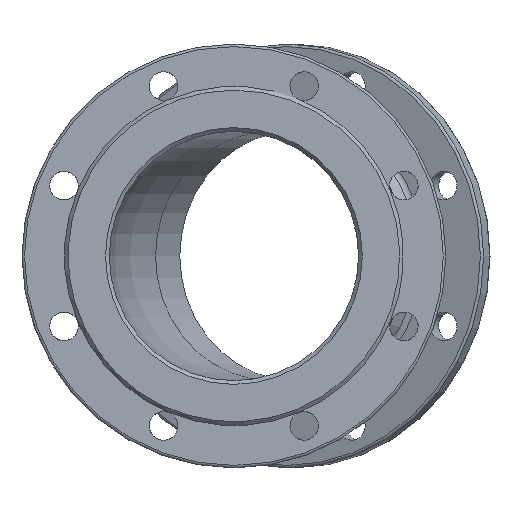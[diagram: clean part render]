
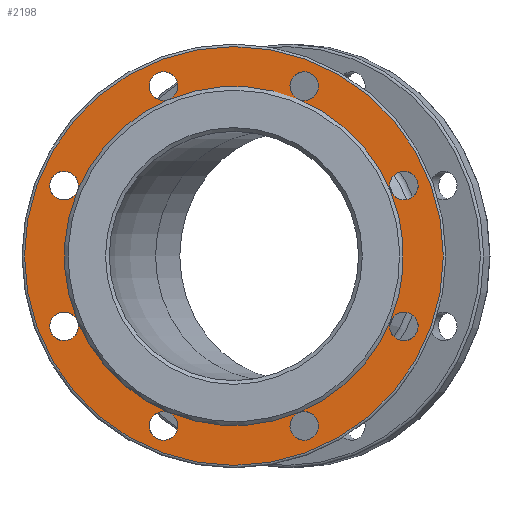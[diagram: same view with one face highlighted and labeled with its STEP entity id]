
A CAD part, left-side view. The second image highlights one B-rep face of the part: STEP entity #2198.
In plain terms, the highlighted planar face has unit normal (-1, 0, 0).
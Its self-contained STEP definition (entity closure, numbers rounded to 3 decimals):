
#8 = DIRECTION ( 'NONE',  ( -1., 0., 0. ) ) ;
#78 = ORIENTED_EDGE ( 'NONE', *, *, #2680, .F. ) ;
#83 = DIRECTION ( 'NONE',  ( 0., 0., -1. ) ) ;
#86 = EDGE_CURVE ( 'NONE', #1338, #1338, #1350, .T. ) ;
#114 = AXIS2_PLACEMENT_3D ( 'NONE', #1676, #2510, #656 ) ;
#116 = ORIENTED_EDGE ( 'NONE', *, *, #945, .F. ) ;
#186 = AXIS2_PLACEMENT_3D ( 'NONE', #734, #701, #1760 ) ;
#203 = AXIS2_PLACEMENT_3D ( 'NONE', #1680, #671, #1502 ) ;
#208 = DIRECTION ( 'NONE',  ( -1., 0., 0. ) ) ;
#209 = DIRECTION ( 'NONE',  ( 0., 0., -1. ) ) ;
#256 = AXIS2_PLACEMENT_3D ( 'NONE', #543, #1791, #756 ) ;
#278 = CIRCLE ( 'NONE', #2185, 136. ) ;
#292 = DIRECTION ( 'NONE',  ( -1., 0., 0. ) ) ;
#320 = CARTESIAN_POINT ( 'NONE',  ( 3., -125.648, -52.045 ) ) ;
#323 = ORIENTED_EDGE ( 'NONE', *, *, #1170, .F. ) ;
#376 = AXIS2_PLACEMENT_3D ( 'NONE', #981, #1813, #2259 ) ;
#412 = CIRCLE ( 'NONE', #1356, 11.5 ) ;
#417 = FACE_OUTER_BOUND ( 'NONE', #1762, .T. ) ;
#420 = DIRECTION ( 'NONE',  ( 0., 0., 1. ) ) ;
#469 = DIRECTION ( 'NONE',  ( 0., 0., 1. ) ) ;
#485 = EDGE_CURVE ( 'NONE', #2542, #2518, #1079, .T. ) ;
#511 = DIRECTION ( 'NONE',  ( 0., 0., 1. ) ) ;
#515 = DIRECTION ( 'NONE',  ( -1., 0., 0. ) ) ;
#534 = CARTESIAN_POINT ( 'NONE',  ( 3., 52.045, -125.648 ) ) ;
#535 = CARTESIAN_POINT ( 'NONE',  ( 3., 56.446, 136.272 ) ) ;
#541 = AXIS2_PLACEMENT_3D ( 'NONE', #1722, #8, #1094 ) ;
#543 = CARTESIAN_POINT ( 'NONE',  ( 3., 0., 0. ) ) ;
#547 = DIRECTION ( 'NONE',  ( -1., 0., 0. ) ) ;
#575 = ORIENTED_EDGE ( 'NONE', *, *, #1215, .F. ) ;
#579 = EDGE_LOOP ( 'NONE', ( #2092, #2101, #78, #323, #2316, #1378, #575, #2179, #2229, #1122, #2275, #116, #1228, #1061, #626, #1599 ) ) ;
#597 = DIRECTION ( 'NONE',  ( -1., 0., 0. ) ) ;
#615 = EDGE_CURVE ( 'NONE', #2294, #1338, #1243, .T. ) ;
#623 = CARTESIAN_POINT ( 'NONE',  ( 3., 0., 0. ) ) ;
#626 = ORIENTED_EDGE ( 'NONE', *, *, #485, .F. ) ;
#628 = AXIS2_PLACEMENT_3D ( 'NONE', #1271, #208, #1038 ) ;
#630 = DIRECTION ( 'NONE',  ( -1., 0., 0. ) ) ;
#656 = DIRECTION ( 'NONE',  ( 0., 0., 1. ) ) ;
#671 = DIRECTION ( 'NONE',  ( -1., 0., 0. ) ) ;
#701 = DIRECTION ( 'NONE',  ( -1., 0., 0. ) ) ;
#714 = DIRECTION ( 'NONE',  ( -1., 0., 0. ) ) ;
#722 = AXIS2_PLACEMENT_3D ( 'NONE', #1568, #515, #1533 ) ;
#732 = DIRECTION ( 'NONE',  ( -1., 0., 0. ) ) ;
#734 = CARTESIAN_POINT ( 'NONE',  ( 3., 0., 0. ) ) ;
#753 = CIRCLE ( 'NONE', #1106, 11.5 ) ;
#756 = DIRECTION ( 'NONE',  ( 0., 0., 1. ) ) ;
#760 = AXIS2_PLACEMENT_3D ( 'NONE', #623, #1819, #420 ) ;
#786 = EDGE_CURVE ( 'NONE', #2068, #2068, #2328, .T. ) ;
#811 = CARTESIAN_POINT ( 'NONE',  ( 3., 136.272, 56.446 ) ) ;
#812 = EDGE_CURVE ( 'NONE', #1786, #2542, #1288, .T. ) ;
#838 = DIRECTION ( 'NONE',  ( 0., 0., -1. ) ) ;
#871 = CIRCLE ( 'NONE', #915, 11.5 ) ;
#890 = CARTESIAN_POINT ( 'NONE',  ( 3., 125.648, -52.045 ) ) ;
#915 = AXIS2_PLACEMENT_3D ( 'NONE', #811, #597, #838 ) ;
#937 = CIRCLE ( 'NONE', #376, 11.5 ) ;
#945 = EDGE_CURVE ( 'NONE', #2294, #2294, #937, .T. ) ;
#981 = CARTESIAN_POINT ( 'NONE',  ( 3., 136.272, -56.446 ) ) ;
#1022 = AXIS2_PLACEMENT_3D ( 'NONE', #2618, #1828, #209 ) ;
#1038 = DIRECTION ( 'NONE',  ( 0., 0., -1. ) ) ;
#1061 = ORIENTED_EDGE ( 'NONE', *, *, #1836, .F. ) ;
#1063 = CARTESIAN_POINT ( 'NONE',  ( 3., 0., 0. ) ) ;
#1079 = CIRCLE ( 'NONE', #256, 136. ) ;
#1094 = DIRECTION ( 'NONE',  ( 0., 0., -1. ) ) ;
#1106 = AXIS2_PLACEMENT_3D ( 'NONE', #535, #547, #83 ) ;
#1122 = ORIENTED_EDGE ( 'NONE', *, *, #86, .F. ) ;
#1170 = EDGE_CURVE ( 'NONE', #2656, #2656, #2540, .T. ) ;
#1197 = EDGE_CURVE ( 'NONE', #2650, #2650, #1447, .T. ) ;
#1199 = CARTESIAN_POINT ( 'NONE',  ( 3., -125.648, 52.045 ) ) ;
#1215 = EDGE_CURVE ( 'NONE', #1317, #2068, #1233, .T. ) ;
#1228 = ORIENTED_EDGE ( 'NONE', *, *, #1566, .F. ) ;
#1233 = CIRCLE ( 'NONE', #186, 136. ) ;
#1243 = CIRCLE ( 'NONE', #760, 136. ) ;
#1245 = FACE_BOUND ( 'NONE', #579, .T. ) ;
#1255 = EDGE_CURVE ( 'NONE', #1317, #1317, #412, .T. ) ;
#1271 = CARTESIAN_POINT ( 'NONE',  ( 3., 0., 0. ) ) ;
#1288 = CIRCLE ( 'NONE', #2667, 136. ) ;
#1309 = CARTESIAN_POINT ( 'NONE',  ( 3., -56.446, -136.272 ) ) ;
#1317 = VERTEX_POINT ( 'NONE', #2163 ) ;
#1328 = EDGE_CURVE ( 'NONE', #1338, #1317, #278, .T. ) ;
#1338 = VERTEX_POINT ( 'NONE', #534 ) ;
#1350 = CIRCLE ( 'NONE', #1833, 11.5 ) ;
#1356 = AXIS2_PLACEMENT_3D ( 'NONE', #1309, #292, #1950 ) ;
#1362 = DIRECTION ( 'NONE',  ( 0., 0., 1. ) ) ;
#1378 = ORIENTED_EDGE ( 'NONE', *, *, #786, .F. ) ;
#1422 = CARTESIAN_POINT ( 'NONE',  ( 3., 0., -168. ) ) ;
#1447 = CIRCLE ( 'NONE', #628, 168. ) ;
#1471 = CARTESIAN_POINT ( 'NONE',  ( 3., 0., 0. ) ) ;
#1502 = DIRECTION ( 'NONE',  ( 0., 0., -1. ) ) ;
#1509 = AXIS2_PLACEMENT_3D ( 'NONE', #1063, #2325, #469 ) ;
#1533 = DIRECTION ( 'NONE',  ( 0., 0., -1. ) ) ;
#1566 = EDGE_CURVE ( 'NONE', #2518, #2294, #2668, .T. ) ;
#1568 = CARTESIAN_POINT ( 'NONE',  ( 3., -136.272, -56.446 ) ) ;
#1599 = ORIENTED_EDGE ( 'NONE', *, *, #2454, .F. ) ;
#1605 = EDGE_CURVE ( 'NONE', #2068, #2656, #2330, .T. ) ;
#1664 = DIRECTION ( 'NONE',  ( 0., 0., 1. ) ) ;
#1676 = CARTESIAN_POINT ( 'NONE',  ( 3., 0., 0. ) ) ;
#1680 = CARTESIAN_POINT ( 'NONE',  ( 3., -136.272, 56.446 ) ) ;
#1722 = CARTESIAN_POINT ( 'NONE',  ( 3., -56.446, 136.272 ) ) ;
#1760 = DIRECTION ( 'NONE',  ( 0., 0., 1. ) ) ;
#1762 = EDGE_LOOP ( 'NONE', ( #2046 ) ) ;
#1786 = VERTEX_POINT ( 'NONE', #1846 ) ;
#1791 = DIRECTION ( 'NONE',  ( -1., 0., 0. ) ) ;
#1813 = DIRECTION ( 'NONE',  ( -1., 0., 0. ) ) ;
#1819 = DIRECTION ( 'NONE',  ( -1., 0., 0. ) ) ;
#1828 = DIRECTION ( 'NONE',  ( 1., 0., 0. ) ) ;
#1833 = AXIS2_PLACEMENT_3D ( 'NONE', #2010, #732, #1998 ) ;
#1836 = EDGE_CURVE ( 'NONE', #2518, #2518, #871, .T. ) ;
#1846 = CARTESIAN_POINT ( 'NONE',  ( 3., -52.045, 125.648 ) ) ;
#1847 = CIRCLE ( 'NONE', #541, 11.5 ) ;
#1950 = DIRECTION ( 'NONE',  ( 0., 0., -1. ) ) ;
#1998 = DIRECTION ( 'NONE',  ( 0., 0., -1. ) ) ;
#2010 = CARTESIAN_POINT ( 'NONE',  ( 3., 56.446, -136.272 ) ) ;
#2046 = ORIENTED_EDGE ( 'NONE', *, *, #1197, .T. ) ;
#2054 = CARTESIAN_POINT ( 'NONE',  ( 3., 52.045, 125.648 ) ) ;
#2068 = VERTEX_POINT ( 'NONE', #320 ) ;
#2075 = PLANE ( 'NONE',  #1022 ) ;
#2092 = ORIENTED_EDGE ( 'NONE', *, *, #812, .F. ) ;
#2101 = ORIENTED_EDGE ( 'NONE', *, *, #2315, .F. ) ;
#2163 = CARTESIAN_POINT ( 'NONE',  ( 3., -52.045, -125.648 ) ) ;
#2175 = CARTESIAN_POINT ( 'NONE',  ( 3., 0., 0. ) ) ;
#2179 = ORIENTED_EDGE ( 'NONE', *, *, #1255, .F. ) ;
#2185 = AXIS2_PLACEMENT_3D ( 'NONE', #2175, #2562, #511 ) ;
#2198 = ADVANCED_FACE ( 'NONE', ( #417, #1245 ), #2075, .F. ) ;
#2229 = ORIENTED_EDGE ( 'NONE', *, *, #1328, .F. ) ;
#2259 = DIRECTION ( 'NONE',  ( 0., 0., -1. ) ) ;
#2275 = ORIENTED_EDGE ( 'NONE', *, *, #615, .F. ) ;
#2294 = VERTEX_POINT ( 'NONE', #890 ) ;
#2315 = EDGE_CURVE ( 'NONE', #1786, #1786, #1847, .T. ) ;
#2316 = ORIENTED_EDGE ( 'NONE', *, *, #1605, .F. ) ;
#2325 = DIRECTION ( 'NONE',  ( -1., 0., 0. ) ) ;
#2328 = CIRCLE ( 'NONE', #722, 11.5 ) ;
#2330 = CIRCLE ( 'NONE', #1509, 136. ) ;
#2449 = CIRCLE ( 'NONE', #2621, 136. ) ;
#2454 = EDGE_CURVE ( 'NONE', #2542, #2542, #753, .T. ) ;
#2510 = DIRECTION ( 'NONE',  ( -1., 0., 0. ) ) ;
#2518 = VERTEX_POINT ( 'NONE', #2670 ) ;
#2540 = CIRCLE ( 'NONE', #203, 11.5 ) ;
#2542 = VERTEX_POINT ( 'NONE', #2054 ) ;
#2562 = DIRECTION ( 'NONE',  ( -1., 0., 0. ) ) ;
#2565 = CARTESIAN_POINT ( 'NONE',  ( 3., 0., 0. ) ) ;
#2618 = CARTESIAN_POINT ( 'NONE',  ( 3., 136., 0. ) ) ;
#2621 = AXIS2_PLACEMENT_3D ( 'NONE', #1471, #630, #1664 ) ;
#2650 = VERTEX_POINT ( 'NONE', #1422 ) ;
#2656 = VERTEX_POINT ( 'NONE', #1199 ) ;
#2667 = AXIS2_PLACEMENT_3D ( 'NONE', #2565, #714, #1362 ) ;
#2668 = CIRCLE ( 'NONE', #114, 136. ) ;
#2670 = CARTESIAN_POINT ( 'NONE',  ( 3., 125.648, 52.045 ) ) ;
#2680 = EDGE_CURVE ( 'NONE', #2656, #1786, #2449, .T. ) ;
